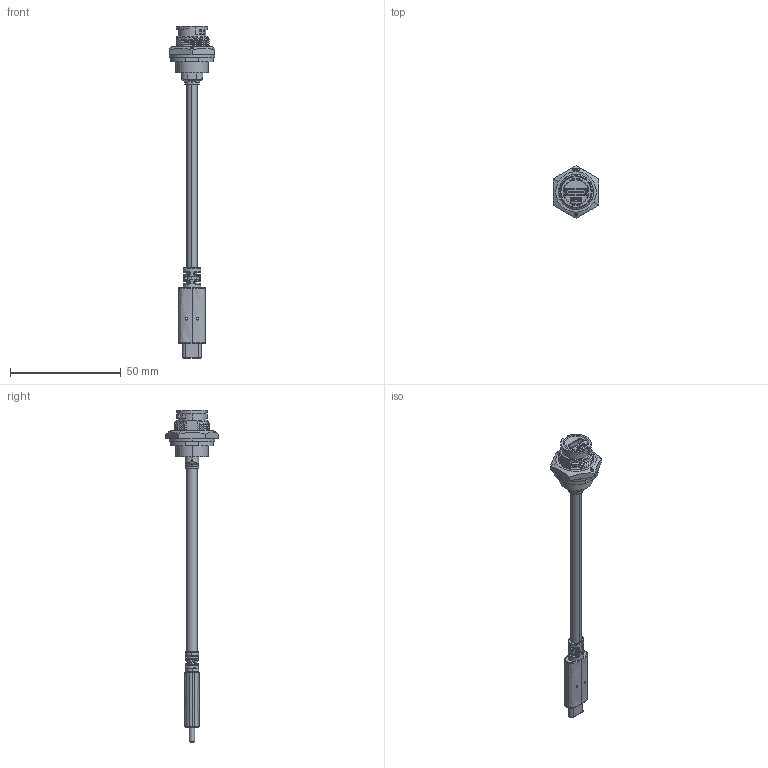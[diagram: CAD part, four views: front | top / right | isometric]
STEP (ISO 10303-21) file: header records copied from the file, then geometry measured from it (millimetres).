
FILE_DESCRIPTION (( 'STEP AP203' ), '1' );
FILE_NAME ('RR-11C200-CS-XX.STEP', '2025-02-14T06:11:08', ( '' ), ( '' ), 'SwSTEP 2.0', 'SolidWorks 2019', '' );
FILE_SCHEMA (( 'CONFIG_CONTROL_DESIGN' ));
Length unit declared in the file: millimetre
Products named in the file (1): RR-11C200-CS-XX
Bounding box: 20.6 x 23.79 x 149.85 mm (x, y, z)
Volume: 8059.4 mm3; surface area: 6586.7 mm2
Topology: 3 solids, 4 shells, 547 faces, 1465 edges, 945 vertices
Faces by surface type: plane 302, cylinder 122, bspline 93, torus 19, cone 11
Entity records: 29728 total; most frequent: CARTESIAN_POINT 17347, ORIENTED_EDGE 2922, DIRECTION 2054, EDGE_CURVE 1461, VERTEX_POINT 945, VECTOR 688, LINE 688, AXIS2_PLACEMENT_3D 683
